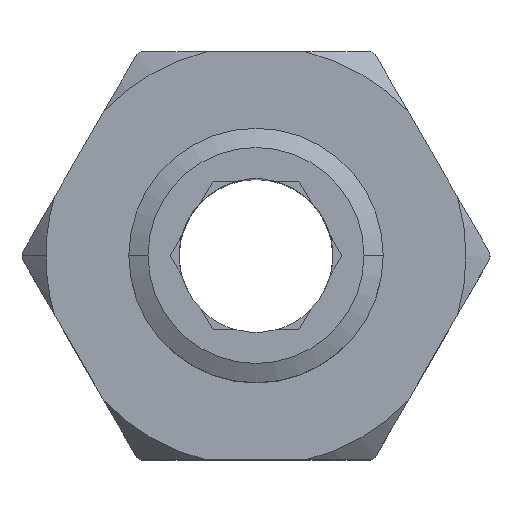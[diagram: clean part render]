
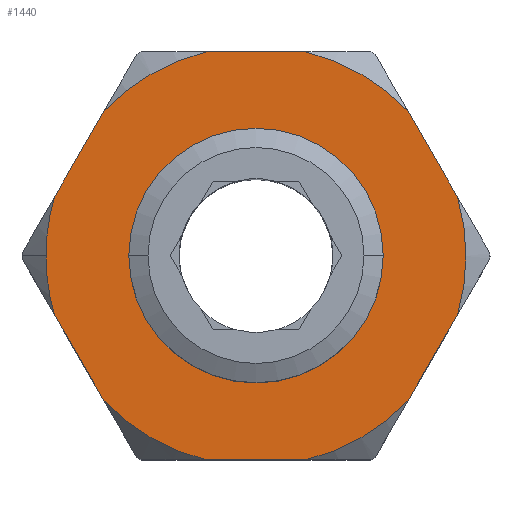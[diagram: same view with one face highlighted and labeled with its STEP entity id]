
A CAD part, top view. The second image highlights one B-rep face of the part: STEP entity #1440.
In plain terms, the highlighted planar face has unit normal (0, 0, 1).
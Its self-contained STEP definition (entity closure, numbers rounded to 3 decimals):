
#48 = CARTESIAN_POINT ( 'NONE',  ( 8.611, 2.085, 12.5 ) ) ;
#54 = CARTESIAN_POINT ( 'NONE',  ( -2.077, -8.5, 12.5 ) ) ;
#99 = CARTESIAN_POINT ( 'NONE',  ( 5., 8.5, 12.5 ) ) ;
#127 = VECTOR ( 'NONE', #2573, 1000. ) ;
#171 = VERTEX_POINT ( 'NONE', #760 ) ;
#177 = DIRECTION ( 'NONE',  ( -1., 0., 0. ) ) ;
#197 = VECTOR ( 'NONE', #4372, 1000. ) ;
#210 = ORIENTED_EDGE ( 'NONE', *, *, #4416, .T. ) ;
#223 = CARTESIAN_POINT ( 'NONE',  ( 5., -8.5, 12.5 ) ) ;
#244 = VECTOR ( 'NONE', #2917, 1000. ) ;
#270 = AXIS2_PLACEMENT_3D ( 'NONE', #2416, #3809, #3189 ) ;
#318 = CARTESIAN_POINT ( 'NONE',  ( 8.611, -2.085, 12.5 ) ) ;
#331 = CARTESIAN_POINT ( 'NONE',  ( -6.323, -6.048, 12.5 ) ) ;
#360 = DIRECTION ( 'NONE',  ( 0., 0., -1. ) ) ;
#371 = EDGE_CURVE ( 'NONE', #3311, #2075, #3905, .T. ) ;
#433 = CIRCLE ( 'NONE', #3032, 8.75 ) ;
#446 = CIRCLE ( 'NONE', #674, 8.75 ) ;
#457 = CARTESIAN_POINT ( 'NONE',  ( -2.077, 8.5, 12.5 ) ) ;
#472 = CARTESIAN_POINT ( 'NONE',  ( 0., 0., 12.5 ) ) ;
#496 = CIRCLE ( 'NONE', #270, 8.75 ) ;
#500 = EDGE_CURVE ( 'NONE', #2489, #3901, #433, .T. ) ;
#593 = CARTESIAN_POINT ( 'NONE',  ( 0., 0., 12.5 ) ) ;
#661 = DIRECTION ( 'NONE',  ( 0., 0., 1. ) ) ;
#663 = CARTESIAN_POINT ( 'NONE',  ( -6.111, -6.415, 12.5 ) ) ;
#674 = AXIS2_PLACEMENT_3D ( 'NONE', #905, #1304, #177 ) ;
#684 = AXIS2_PLACEMENT_3D ( 'NONE', #593, #3413, #1000 ) ;
#760 = CARTESIAN_POINT ( 'NONE',  ( 6.323, 6.048, 12.5 ) ) ;
#771 = EDGE_LOOP ( 'NONE', ( #3107, #3577 ) ) ;
#863 = PLANE ( 'NONE',  #2778 ) ;
#905 = CARTESIAN_POINT ( 'NONE',  ( 0., 0., 12.5 ) ) ;
#968 = CARTESIAN_POINT ( 'NONE',  ( 0., 0., 12.5 ) ) ;
#1000 = DIRECTION ( 'NONE',  ( -1., 0., 0. ) ) ;
#1117 = AXIS2_PLACEMENT_3D ( 'NONE', #968, #661, #4494 ) ;
#1136 = EDGE_CURVE ( 'NONE', #2489, #3470, #3099, .T. ) ;
#1169 = DIRECTION ( 'NONE',  ( -1., 0., 0. ) ) ;
#1304 = DIRECTION ( 'NONE',  ( 0., 0., 1. ) ) ;
#1308 = ORIENTED_EDGE ( 'NONE', *, *, #1578, .F. ) ;
#1358 = CIRCLE ( 'NONE', #3994, 5.1 ) ;
#1436 = ORIENTED_EDGE ( 'NONE', *, *, #1776, .F. ) ;
#1440 = ADVANCED_FACE ( 'NONE', ( #2618, #4020 ), #863, .F. ) ;
#1470 = EDGE_CURVE ( 'NONE', #2053, #4165, #3092, .T. ) ;
#1509 = CIRCLE ( 'NONE', #684, 8.75 ) ;
#1530 = EDGE_CURVE ( 'NONE', #2053, #3470, #1509, .T. ) ;
#1558 = ORIENTED_EDGE ( 'NONE', *, *, #1136, .F. ) ;
#1578 = EDGE_CURVE ( 'NONE', #2997, #4110, #3455, .T. ) ;
#1653 = ORIENTED_EDGE ( 'NONE', *, *, #1530, .T. ) ;
#1678 = CARTESIAN_POINT ( 'NONE',  ( 2.077, -8.5, 12.5 ) ) ;
#1683 = ORIENTED_EDGE ( 'NONE', *, *, #2905, .T. ) ;
#1725 = VERTEX_POINT ( 'NONE', #1754 ) ;
#1754 = CARTESIAN_POINT ( 'NONE',  ( -5.1, 0., 12.5 ) ) ;
#1776 = EDGE_CURVE ( 'NONE', #3311, #3349, #2202, .T. ) ;
#1792 = CARTESIAN_POINT ( 'NONE',  ( 6.323, -6.048, 12.5 ) ) ;
#1840 = ORIENTED_EDGE ( 'NONE', *, *, #4509, .T. ) ;
#1872 = VECTOR ( 'NONE', #2731, 1000. ) ;
#1891 = CARTESIAN_POINT ( 'NONE',  ( 5.1, 0., 12.5 ) ) ;
#1911 = VERTEX_POINT ( 'NONE', #457 ) ;
#1921 = CARTESIAN_POINT ( 'NONE',  ( 5., 0., 12.5 ) ) ;
#1958 = CARTESIAN_POINT ( 'NONE',  ( -8.4, 2.452, 12.5 ) ) ;
#2053 = VERTEX_POINT ( 'NONE', #1678 ) ;
#2057 = CARTESIAN_POINT ( 'NONE',  ( -8.75, 0., 12.5 ) ) ;
#2075 = VERTEX_POINT ( 'NONE', #2057 ) ;
#2124 = EDGE_LOOP ( 'NONE', ( #1308, #1683, #4500, #1653, #1558, #2344, #2183, #4514, #3561, #1840, #1436, #3480, #210 ) ) ;
#2142 = DIRECTION ( 'NONE',  ( 0., 0., 1. ) ) ;
#2183 = ORIENTED_EDGE ( 'NONE', *, *, #4497, .F. ) ;
#2200 = AXIS2_PLACEMENT_3D ( 'NONE', #3618, #2893, #1169 ) ;
#2202 = LINE ( 'NONE', #3550, #244 ) ;
#2271 = DIRECTION ( 'NONE',  ( 0., 0., -1. ) ) ;
#2310 = EDGE_CURVE ( 'NONE', #171, #4510, #446, .T. ) ;
#2344 = ORIENTED_EDGE ( 'NONE', *, *, #500, .T. ) ;
#2406 = DIRECTION ( 'NONE',  ( 0., 0., 1. ) ) ;
#2416 = CARTESIAN_POINT ( 'NONE',  ( 0., 0., 12.5 ) ) ;
#2430 = EDGE_CURVE ( 'NONE', #3805, #1725, #1358, .T. ) ;
#2489 = VERTEX_POINT ( 'NONE', #3536 ) ;
#2573 = DIRECTION ( 'NONE',  ( 0.5, -0.866, 0. ) ) ;
#2618 = FACE_BOUND ( 'NONE', #771, .T. ) ;
#2624 = EDGE_CURVE ( 'NONE', #1725, #3805, #4295, .T. ) ;
#2640 = DIRECTION ( 'NONE',  ( -1., 0., 0. ) ) ;
#2674 = AXIS2_PLACEMENT_3D ( 'NONE', #4505, #360, #3487 ) ;
#2676 = CARTESIAN_POINT ( 'NONE',  ( -6.323, 6.048, 12.5 ) ) ;
#2721 = CIRCLE ( 'NONE', #2200, 8.75 ) ;
#2731 = DIRECTION ( 'NONE',  ( -0.5, 0.866, 0. ) ) ;
#2778 = AXIS2_PLACEMENT_3D ( 'NONE', #1921, #2271, #3665 ) ;
#2893 = DIRECTION ( 'NONE',  ( 0., 0., 1. ) ) ;
#2905 = EDGE_CURVE ( 'NONE', #2997, #4165, #4377, .T. ) ;
#2917 = DIRECTION ( 'NONE',  ( 0.5, 0.866, 0. ) ) ;
#2997 = VERTEX_POINT ( 'NONE', #331 ) ;
#3032 = AXIS2_PLACEMENT_3D ( 'NONE', #472, #2142, #3611 ) ;
#3092 = LINE ( 'NONE', #223, #3944 ) ;
#3099 = LINE ( 'NONE', #318, #3560 ) ;
#3107 = ORIENTED_EDGE ( 'NONE', *, *, #2624, .T. ) ;
#3189 = DIRECTION ( 'NONE',  ( -1., 0., 0. ) ) ;
#3257 = LINE ( 'NONE', #48, #127 ) ;
#3309 = CARTESIAN_POINT ( 'NONE',  ( -8.4, -2.452, 12.5 ) ) ;
#3311 = VERTEX_POINT ( 'NONE', #1958 ) ;
#3349 = VERTEX_POINT ( 'NONE', #2676 ) ;
#3362 = DIRECTION ( 'NONE',  ( -1., 0., 0. ) ) ;
#3387 = DIRECTION ( 'NONE',  ( 0., 0., -1. ) ) ;
#3413 = DIRECTION ( 'NONE',  ( 0., 0., 1. ) ) ;
#3455 = LINE ( 'NONE', #663, #1872 ) ;
#3470 = VERTEX_POINT ( 'NONE', #1792 ) ;
#3480 = ORIENTED_EDGE ( 'NONE', *, *, #371, .T. ) ;
#3487 = DIRECTION ( 'NONE',  ( -1., 0., 0. ) ) ;
#3536 = CARTESIAN_POINT ( 'NONE',  ( 8.4, -2.452, 12.5 ) ) ;
#3550 = CARTESIAN_POINT ( 'NONE',  ( -6.111, 6.415, 12.5 ) ) ;
#3560 = VECTOR ( 'NONE', #4182, 1000. ) ;
#3561 = ORIENTED_EDGE ( 'NONE', *, *, #4120, .F. ) ;
#3577 = ORIENTED_EDGE ( 'NONE', *, *, #2430, .T. ) ;
#3611 = DIRECTION ( 'NONE',  ( -1., 0., 0. ) ) ;
#3618 = CARTESIAN_POINT ( 'NONE',  ( 0., 0., 12.5 ) ) ;
#3665 = DIRECTION ( 'NONE',  ( -1., 0., 0. ) ) ;
#3727 = CARTESIAN_POINT ( 'NONE',  ( 0., 0., 12.5 ) ) ;
#3745 = CARTESIAN_POINT ( 'NONE',  ( 8.4, 2.452, 12.5 ) ) ;
#3805 = VERTEX_POINT ( 'NONE', #1891 ) ;
#3809 = DIRECTION ( 'NONE',  ( 0., 0., 1. ) ) ;
#3901 = VERTEX_POINT ( 'NONE', #3745 ) ;
#3902 = CARTESIAN_POINT ( 'NONE',  ( 2.077, 8.5, 12.5 ) ) ;
#3905 = CIRCLE ( 'NONE', #1117, 8.75 ) ;
#3931 = LINE ( 'NONE', #99, #197 ) ;
#3944 = VECTOR ( 'NONE', #4198, 1000. ) ;
#3994 = AXIS2_PLACEMENT_3D ( 'NONE', #3727, #3387, #2640 ) ;
#4020 = FACE_OUTER_BOUND ( 'NONE', #2124, .T. ) ;
#4110 = VERTEX_POINT ( 'NONE', #3309 ) ;
#4120 = EDGE_CURVE ( 'NONE', #1911, #4510, #3931, .T. ) ;
#4165 = VERTEX_POINT ( 'NONE', #54 ) ;
#4182 = DIRECTION ( 'NONE',  ( -0.5, -0.866, 0. ) ) ;
#4198 = DIRECTION ( 'NONE',  ( -1., 0., 0. ) ) ;
#4217 = AXIS2_PLACEMENT_3D ( 'NONE', #4470, #2406, #3362 ) ;
#4295 = CIRCLE ( 'NONE', #2674, 5.1 ) ;
#4372 = DIRECTION ( 'NONE',  ( 1., 0., 0. ) ) ;
#4377 = CIRCLE ( 'NONE', #4217, 8.75 ) ;
#4416 = EDGE_CURVE ( 'NONE', #2075, #4110, #496, .T. ) ;
#4470 = CARTESIAN_POINT ( 'NONE',  ( 0., 0., 12.5 ) ) ;
#4494 = DIRECTION ( 'NONE',  ( -1., 0., 0. ) ) ;
#4497 = EDGE_CURVE ( 'NONE', #171, #3901, #3257, .T. ) ;
#4500 = ORIENTED_EDGE ( 'NONE', *, *, #1470, .F. ) ;
#4505 = CARTESIAN_POINT ( 'NONE',  ( 0., 0., 12.5 ) ) ;
#4509 = EDGE_CURVE ( 'NONE', #1911, #3349, #2721, .T. ) ;
#4510 = VERTEX_POINT ( 'NONE', #3902 ) ;
#4514 = ORIENTED_EDGE ( 'NONE', *, *, #2310, .T. ) ;
